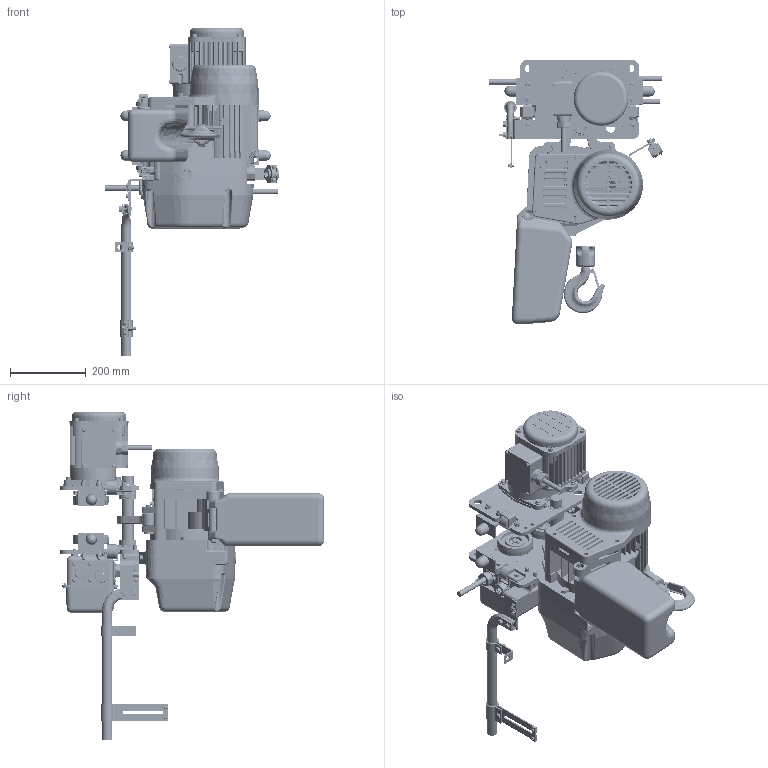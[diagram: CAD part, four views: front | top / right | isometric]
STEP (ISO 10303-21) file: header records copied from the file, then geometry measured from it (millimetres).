
FILE_DESCRIPTION (( 'STEP AP203' ), '1' );
FILE_NAME ('EQM010.STEP', '2024-05-07T20:34:26', ( '' ), ( '' ), 'SwSTEP 2.0', 'SolidWorks 2023', '' );
FILE_SCHEMA (( 'CONFIG_CONTROL_DESIGN' ));
Length unit declared in the file: millimetre
Products named in the file (123): MR2ES1759; MR1DS9634; MR2SHM10S9A8; MR1DS9401_1 - 8 TON & 10 L TON; 9093424_9093424; MS551010; MR1DS9411; 9093330_9093330; ECP5924AD1-0-X_ﾃﾞﾌｫﾙﾄ; T6G156020; 9009414-5_9009414-5; 9012712_9012712; E6L614010S; 9091295_9091295; EQ1DI9110_ﾃﾞﾌｫﾙﾄ; MR1DS1481; N6TA100E91251-0_ﾃﾞﾌｫﾙﾄ; ER2DS90111_ﾃﾞﾌｫﾙﾄ; hexagon socket head cap screw_jis_JIS B 1176 M5 x 10 (10) --N; E6F151003; MR1DS1211; IE1DI90151-1018_ﾃﾞﾌｫﾙﾄ; ECP5924AA1-0-X_ﾃﾞﾌｫﾙﾄ; MS1102010; MR1DS9248; ECP6912AA; MS006010; 16-6P (MR2); MR1DS9492; 70131XX_7013103; E1DI94011-112_ﾃﾞﾌｫﾙﾄ; EQ1DI9001; MS554010; MR1DS9218; EQ1DI1011_ﾃﾞﾌｫﾙﾄ; CableHolder-X_ﾃﾞﾌｫﾙﾄ; E2YS005-9109; M6SE010S9102; MR1DS1491; radial ball bearing_68_am_PreviewCfg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
Assembly tree (271 placements, depth 6):
  EQM010
    MR2Q010_5" FLANGE
      MR1DS5201
        MR1DS9201
        MR1DS9203  x2
        M6FE010S9113
      MR1DS5202
        MR1DS9202
        MR1DS9203  x2
        M6FE010S9114
      MSF115010_MSF115010
      MR1DS9634  x4
      9093330_9093330  x8
      9012711_9012711  x20
      9093424_9093424  x16
      MR1DS9631  x4
      MS006010  x4
      MR1DS1211_Reversed  x2
        MR1DS1211
        MR1DS9218
      MR1DS1211  x2
        MR1DS1211
        MR1DS9218
      MS1101010  x2
        M6SE010S9101
        radial ball bearing_68_am_PreviewCfg
        MS1101010 SNAP RING_PreviewCfg
      9093329_9093329  x4
      MS1102010  x2
        M6SE010S9102
        MS1101010 BEARING_AFBMA 20.1 - 03-15 - Full,SI,NC,Full_68
        MS1101010 SNAP RING_B27.7M - 3BM1-42
      MS161010
      T6G156020
      9009432_9009432
      T3P154020_T3P154020
      9009414-5_9009414-5
      9047115_9047115  x4
      MS104010  x4
      6077801
        MR1DS93112
        MR1DS9324
        MR1DS9325
        MR1DS1301
        90912134  x4
        MS554010  x4
      9012513  x4
      9093328_9093328  x4
      MR1DS9248
      70131XX_7013103
        MR1DS9411
        MR1DS9401_1 - 8 TON & 10 L TON
        MR1DS9421
        MS554010  x12
        MS517010  x4
        MS551010  x4
        ECP5924AC1
        ECP5924AB1
        ECP5924AD1
        MS527010
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Bounding box: 461.49 x 698.39 x 866.59 mm (x, y, z)
Volume: 10108443.9 mm3; surface area: 3746673.2 mm2
Topology: 304 solids, 304 shells, 12870 faces, 33091 edges, 21043 vertices
Faces by surface type: plane 4560, cylinder 3931, cone 2317, bspline 1007, torus 903, sphere 152
Entity records: 325418 total; most frequent: CARTESIAN_POINT 120990, ORIENTED_EDGE 40272, DIRECTION 38658, EDGE_CURVE 20136, AXIS2_PLACEMENT_3D 14677, VERTEX_POINT 13001, VECTOR 9304, LINE 9304
